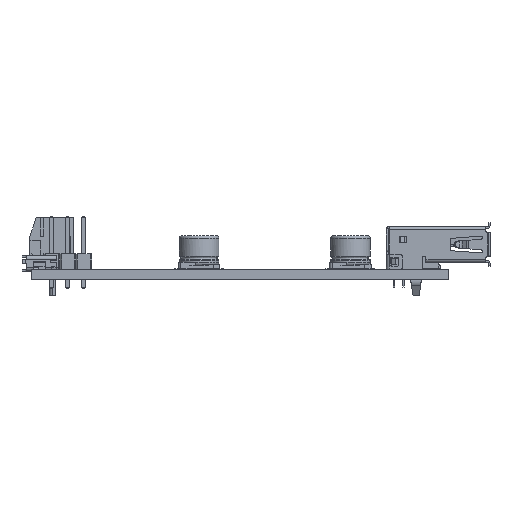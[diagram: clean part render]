
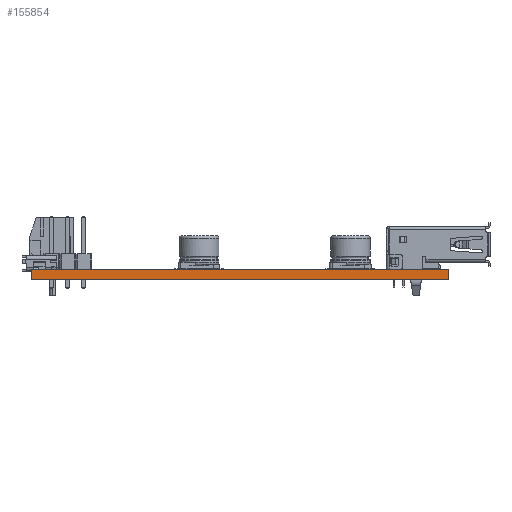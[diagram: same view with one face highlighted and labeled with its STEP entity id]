
A CAD part, front view. The second image highlights one B-rep face of the part: STEP entity #155854.
In plain terms, the highlighted planar face has unit normal (0, -1, 0).
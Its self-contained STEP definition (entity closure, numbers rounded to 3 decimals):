
#155673 = PLANE('',#155674);
#155674 = AXIS2_PLACEMENT_3D('',#155675,#155676,#155677);
#155675 = CARTESIAN_POINT('',(209.,-60.65,0.));
#155676 = DIRECTION('',(1.,0.,-0.));
#155677 = DIRECTION('',(0.,-1.,0.));
#155698 = VERTEX_POINT('',#155699);
#155699 = CARTESIAN_POINT('',(209.,-139.6,1.6));
#155713 = PLANE('',#155714);
#155714 = AXIS2_PLACEMENT_3D('',#155715,#155716,#155717);
#155715 = CARTESIAN_POINT('',(175.715,-100.125,1.6));
#155716 = DIRECTION('',(-0.,-0.,-1.));
#155717 = DIRECTION('',(-1.,0.,0.));
#155725 = EDGE_CURVE('',#155726,#155698,#155728,.T.);
#155726 = VERTEX_POINT('',#155727);
#155727 = CARTESIAN_POINT('',(209.,-139.6,0.));
#155728 = SURFACE_CURVE('',#155729,(#155733,#155740),.PCURVE_S1.);
#155729 = LINE('',#155730,#155731);
#155730 = CARTESIAN_POINT('',(209.,-139.6,0.));
#155731 = VECTOR('',#155732,1.);
#155732 = DIRECTION('',(0.,0.,1.));
#155733 = PCURVE('',#155673,#155734);
#155734 = DEFINITIONAL_REPRESENTATION('',(#155735),#155739);
#155735 = LINE('',#155736,#155737);
#155736 = CARTESIAN_POINT('',(78.95,0.));
#155737 = VECTOR('',#155738,1.);
#155738 = DIRECTION('',(0.,-1.));
#155739 = ( GEOMETRIC_REPRESENTATION_CONTEXT(2) 
PARAMETRIC_REPRESENTATION_CONTEXT() REPRESENTATION_CONTEXT('2D SPACE',''
  ) );
#155740 = PCURVE('',#155741,#155746);
#155741 = PLANE('',#155742);
#155742 = AXIS2_PLACEMENT_3D('',#155743,#155744,#155745);
#155743 = CARTESIAN_POINT('',(209.,-139.6,0.));
#155744 = DIRECTION('',(0.,-1.,0.));
#155745 = DIRECTION('',(-1.,0.,0.));
#155746 = DEFINITIONAL_REPRESENTATION('',(#155747),#155751);
#155747 = LINE('',#155748,#155749);
#155748 = CARTESIAN_POINT('',(0.,-0.));
#155749 = VECTOR('',#155750,1.);
#155750 = DIRECTION('',(0.,-1.));
#155751 = ( GEOMETRIC_REPRESENTATION_CONTEXT(2) 
PARAMETRIC_REPRESENTATION_CONTEXT() REPRESENTATION_CONTEXT('2D SPACE',''
  ) );
#155767 = PLANE('',#155768);
#155768 = AXIS2_PLACEMENT_3D('',#155769,#155770,#155771);
#155769 = CARTESIAN_POINT('',(175.715,-100.125,0.));
#155770 = DIRECTION('',(-0.,-0.,-1.));
#155771 = DIRECTION('',(-1.,0.,0.));
#155800 = PLANE('',#155801);
#155801 = AXIS2_PLACEMENT_3D('',#155802,#155803,#155804);
#155802 = CARTESIAN_POINT('',(142.43,-139.6,0.));
#155803 = DIRECTION('',(-1.,0.,0.));
#155804 = DIRECTION('',(0.,1.,0.));
#155854 = ADVANCED_FACE('',(#155855),#155741,.T.);
#155855 = FACE_BOUND('',#155856,.T.);
#155856 = EDGE_LOOP('',(#155857,#155858,#155881,#155904));
#155857 = ORIENTED_EDGE('',*,*,#155725,.T.);
#155858 = ORIENTED_EDGE('',*,*,#155859,.T.);
#155859 = EDGE_CURVE('',#155698,#155860,#155862,.T.);
#155860 = VERTEX_POINT('',#155861);
#155861 = CARTESIAN_POINT('',(142.43,-139.6,1.6));
#155862 = SURFACE_CURVE('',#155863,(#155867,#155874),.PCURVE_S1.);
#155863 = LINE('',#155864,#155865);
#155864 = CARTESIAN_POINT('',(209.,-139.6,1.6));
#155865 = VECTOR('',#155866,1.);
#155866 = DIRECTION('',(-1.,0.,0.));
#155867 = PCURVE('',#155741,#155868);
#155868 = DEFINITIONAL_REPRESENTATION('',(#155869),#155873);
#155869 = LINE('',#155870,#155871);
#155870 = CARTESIAN_POINT('',(0.,-1.6));
#155871 = VECTOR('',#155872,1.);
#155872 = DIRECTION('',(1.,0.));
#155873 = ( GEOMETRIC_REPRESENTATION_CONTEXT(2) 
PARAMETRIC_REPRESENTATION_CONTEXT() REPRESENTATION_CONTEXT('2D SPACE',''
  ) );
#155874 = PCURVE('',#155713,#155875);
#155875 = DEFINITIONAL_REPRESENTATION('',(#155876),#155880);
#155876 = LINE('',#155877,#155878);
#155877 = CARTESIAN_POINT('',(-33.285,-39.475));
#155878 = VECTOR('',#155879,1.);
#155879 = DIRECTION('',(1.,0.));
#155880 = ( GEOMETRIC_REPRESENTATION_CONTEXT(2) 
PARAMETRIC_REPRESENTATION_CONTEXT() REPRESENTATION_CONTEXT('2D SPACE',''
  ) );
#155881 = ORIENTED_EDGE('',*,*,#155882,.F.);
#155882 = EDGE_CURVE('',#155883,#155860,#155885,.T.);
#155883 = VERTEX_POINT('',#155884);
#155884 = CARTESIAN_POINT('',(142.43,-139.6,0.));
#155885 = SURFACE_CURVE('',#155886,(#155890,#155897),.PCURVE_S1.);
#155886 = LINE('',#155887,#155888);
#155887 = CARTESIAN_POINT('',(142.43,-139.6,0.));
#155888 = VECTOR('',#155889,1.);
#155889 = DIRECTION('',(0.,0.,1.));
#155890 = PCURVE('',#155741,#155891);
#155891 = DEFINITIONAL_REPRESENTATION('',(#155892),#155896);
#155892 = LINE('',#155893,#155894);
#155893 = CARTESIAN_POINT('',(66.57,0.));
#155894 = VECTOR('',#155895,1.);
#155895 = DIRECTION('',(0.,-1.));
#155896 = ( GEOMETRIC_REPRESENTATION_CONTEXT(2) 
PARAMETRIC_REPRESENTATION_CONTEXT() REPRESENTATION_CONTEXT('2D SPACE',''
  ) );
#155897 = PCURVE('',#155800,#155898);
#155898 = DEFINITIONAL_REPRESENTATION('',(#155899),#155903);
#155899 = LINE('',#155900,#155901);
#155900 = CARTESIAN_POINT('',(0.,0.));
#155901 = VECTOR('',#155902,1.);
#155902 = DIRECTION('',(0.,-1.));
#155903 = ( GEOMETRIC_REPRESENTATION_CONTEXT(2) 
PARAMETRIC_REPRESENTATION_CONTEXT() REPRESENTATION_CONTEXT('2D SPACE',''
  ) );
#155904 = ORIENTED_EDGE('',*,*,#155905,.F.);
#155905 = EDGE_CURVE('',#155726,#155883,#155906,.T.);
#155906 = SURFACE_CURVE('',#155907,(#155911,#155918),.PCURVE_S1.);
#155907 = LINE('',#155908,#155909);
#155908 = CARTESIAN_POINT('',(209.,-139.6,0.));
#155909 = VECTOR('',#155910,1.);
#155910 = DIRECTION('',(-1.,0.,0.));
#155911 = PCURVE('',#155741,#155912);
#155912 = DEFINITIONAL_REPRESENTATION('',(#155913),#155917);
#155913 = LINE('',#155914,#155915);
#155914 = CARTESIAN_POINT('',(0.,-0.));
#155915 = VECTOR('',#155916,1.);
#155916 = DIRECTION('',(1.,0.));
#155917 = ( GEOMETRIC_REPRESENTATION_CONTEXT(2) 
PARAMETRIC_REPRESENTATION_CONTEXT() REPRESENTATION_CONTEXT('2D SPACE',''
  ) );
#155918 = PCURVE('',#155767,#155919);
#155919 = DEFINITIONAL_REPRESENTATION('',(#155920),#155924);
#155920 = LINE('',#155921,#155922);
#155921 = CARTESIAN_POINT('',(-33.285,-39.475));
#155922 = VECTOR('',#155923,1.);
#155923 = DIRECTION('',(1.,0.));
#155924 = ( GEOMETRIC_REPRESENTATION_CONTEXT(2) 
PARAMETRIC_REPRESENTATION_CONTEXT() REPRESENTATION_CONTEXT('2D SPACE',''
  ) );
